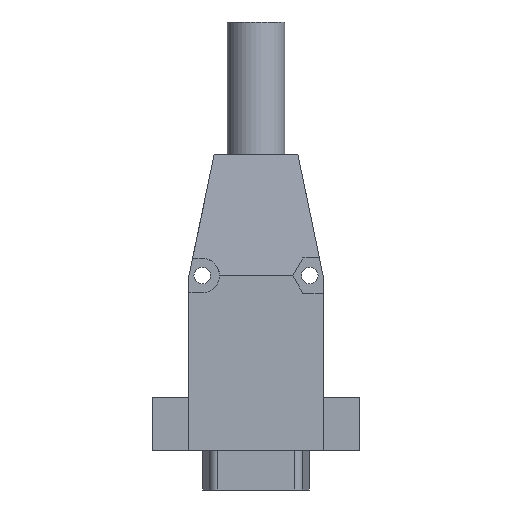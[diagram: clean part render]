
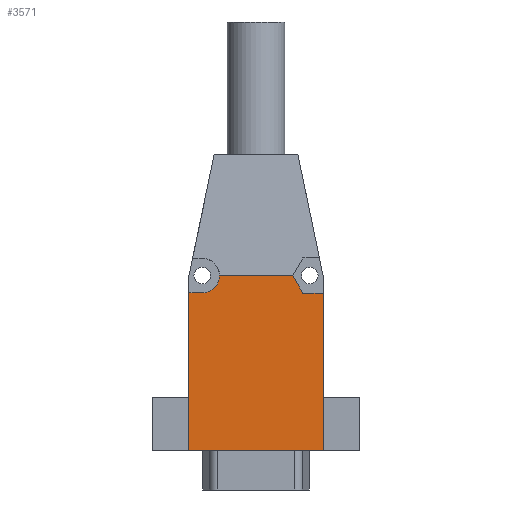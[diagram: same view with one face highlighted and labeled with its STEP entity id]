
A CAD part, front view. The second image highlights one B-rep face of the part: STEP entity #3571.
In plain terms, the highlighted planar face has unit normal (0, -1, 0).
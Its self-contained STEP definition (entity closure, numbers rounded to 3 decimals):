
#75 = LINE ( 'NONE', #3790, #3863 ) ;
#159 = ORIENTED_EDGE ( 'NONE', *, *, #4287, .T. ) ;
#178 = CARTESIAN_POINT ( 'NONE',  ( 13.54, -11.55, 32.8 ) ) ;
#284 = CARTESIAN_POINT ( 'NONE',  ( -2.1, -11.55, 51. ) ) ;
#294 = CARTESIAN_POINT ( 'NONE',  ( 13.54, -11.55, 32.8 ) ) ;
#313 = LINE ( 'NONE', #554, #3991 ) ;
#326 = EDGE_CURVE ( 'NONE', #2175, #2455, #3997, .T. ) ;
#424 = LINE ( 'NONE', #1627, #1276 ) ;
#527 = LINE ( 'NONE', #294, #2773 ) ;
#554 = CARTESIAN_POINT ( 'NONE',  ( -2.1, -11.55, 32.8 ) ) ;
#576 = DIRECTION ( 'NONE',  ( -1., 0., 0. ) ) ;
#648 = PLANE ( 'NONE',  #4322 ) ;
#681 = LINE ( 'NONE', #2991, #2512 ) ;
#816 = EDGE_CURVE ( 'NONE', #2175, #1267, #75, .T. ) ;
#919 = CARTESIAN_POINT ( 'NONE',  ( 18.1, -11.55, 30.15 ) ) ;
#1171 = VERTEX_POINT ( 'NONE', #1207 ) ;
#1207 = CARTESIAN_POINT ( 'NONE',  ( 2.5, -11.55, 32.8 ) ) ;
#1244 = DIRECTION ( 'NONE',  ( 0., 0., 1. ) ) ;
#1267 = VERTEX_POINT ( 'NONE', #919 ) ;
#1276 = VECTOR ( 'NONE', #4225, 1000. ) ;
#1408 = LINE ( 'NONE', #3115, #4231 ) ;
#1458 = DIRECTION ( 'NONE',  ( 0., 0., 1. ) ) ;
#1481 = EDGE_CURVE ( 'NONE', #2653, #2835, #424, .T. ) ;
#1492 = EDGE_CURVE ( 'NONE', #1171, #3980, #313, .T. ) ;
#1520 = DIRECTION ( 'NONE',  ( -1., 0., 0. ) ) ;
#1627 = CARTESIAN_POINT ( 'NONE',  ( -2.1, -11.55, 30.2 ) ) ;
#1649 = DIRECTION ( 'NONE',  ( 0., -1., 0. ) ) ;
#1786 = EDGE_CURVE ( 'NONE', #2835, #1171, #4691, .T. ) ;
#1879 = CARTESIAN_POINT ( 'NONE',  ( 15.07, -11.55, 30.15 ) ) ;
#1978 = ORIENTED_EDGE ( 'NONE', *, *, #326, .F. ) ;
#2016 = VECTOR ( 'NONE', #1520, 1000. ) ;
#2175 = VERTEX_POINT ( 'NONE', #2534 ) ;
#2339 = EDGE_CURVE ( 'NONE', #2455, #2653, #681, .T. ) ;
#2366 = CARTESIAN_POINT ( 'NONE',  ( -0.1, -11.55, 30.2 ) ) ;
#2455 = VERTEX_POINT ( 'NONE', #3974 ) ;
#2499 = ORIENTED_EDGE ( 'NONE', *, *, #2339, .F. ) ;
#2512 = VECTOR ( 'NONE', #2629, 1000. ) ;
#2534 = CARTESIAN_POINT ( 'NONE',  ( 18.1, -11.55, 6.5 ) ) ;
#2629 = DIRECTION ( 'NONE',  ( 0., 0., 1. ) ) ;
#2653 = VERTEX_POINT ( 'NONE', #4117 ) ;
#2773 = VECTOR ( 'NONE', #3960, 1000. ) ;
#2835 = VERTEX_POINT ( 'NONE', #2366 ) ;
#2991 = CARTESIAN_POINT ( 'NONE',  ( -2.1, -11.55, 51. ) ) ;
#3115 = CARTESIAN_POINT ( 'NONE',  ( -2.1, -11.55, 30.15 ) ) ;
#3211 = ORIENTED_EDGE ( 'NONE', *, *, #1786, .F. ) ;
#3269 = VERTEX_POINT ( 'NONE', #1879 ) ;
#3354 = FACE_OUTER_BOUND ( 'NONE', #4624, .T. ) ;
#3403 = CARTESIAN_POINT ( 'NONE',  ( -2.1, -11.55, 6.5 ) ) ;
#3490 = DIRECTION ( 'NONE',  ( 1., 0., 0. ) ) ;
#3571 = ADVANCED_FACE ( 'NONE', ( #3354 ), #648, .F. ) ;
#3581 = DIRECTION ( 'NONE',  ( 0., 1., 0. ) ) ;
#3745 = ORIENTED_EDGE ( 'NONE', *, *, #1481, .F. ) ;
#3790 = CARTESIAN_POINT ( 'NONE',  ( 18.1, -11.55, 6.5 ) ) ;
#3844 = CARTESIAN_POINT ( 'NONE',  ( -0.1, -11.55, 32.8 ) ) ;
#3863 = VECTOR ( 'NONE', #1244, 1000. ) ;
#3960 = DIRECTION ( 'NONE',  ( 0.5, 0., -0.866 ) ) ;
#3974 = CARTESIAN_POINT ( 'NONE',  ( -2.1, -11.55, 6.5 ) ) ;
#3980 = VERTEX_POINT ( 'NONE', #178 ) ;
#3991 = VECTOR ( 'NONE', #3490, 1000. ) ;
#3992 = ORIENTED_EDGE ( 'NONE', *, *, #816, .T. ) ;
#3997 = LINE ( 'NONE', #3403, #2016 ) ;
#4014 = ORIENTED_EDGE ( 'NONE', *, *, #1492, .F. ) ;
#4117 = CARTESIAN_POINT ( 'NONE',  ( -2.1, -11.55, 30.2 ) ) ;
#4225 = DIRECTION ( 'NONE',  ( 1., 0., 0. ) ) ;
#4231 = VECTOR ( 'NONE', #576, 1000. ) ;
#4233 = DIRECTION ( 'NONE',  ( 0., 0., -1. ) ) ;
#4287 = EDGE_CURVE ( 'NONE', #1267, #3269, #1408, .T. ) ;
#4322 = AXIS2_PLACEMENT_3D ( 'NONE', #284, #3581, #1458 ) ;
#4381 = EDGE_CURVE ( 'NONE', #3980, #3269, #527, .T. ) ;
#4528 = AXIS2_PLACEMENT_3D ( 'NONE', #3844, #1649, #4233 ) ;
#4624 = EDGE_LOOP ( 'NONE', ( #2499, #1978, #3992, #159, #4626, #4014, #3211, #3745 ) ) ;
#4626 = ORIENTED_EDGE ( 'NONE', *, *, #4381, .F. ) ;
#4691 = CIRCLE ( 'NONE', #4528, 2.6 ) ;
